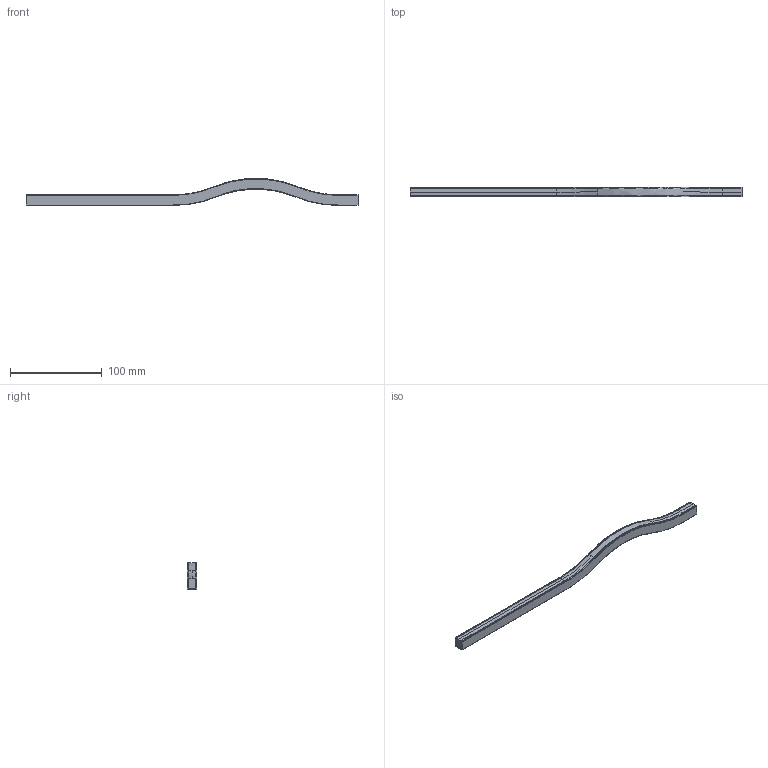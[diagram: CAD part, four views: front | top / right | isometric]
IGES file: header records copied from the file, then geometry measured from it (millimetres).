
Start section: C
Global section: file name: 8220B.igs; native system: By Siemens PLM Incorporated; preprocessor: XPlus GENERIC/IGES 16.0.42; author: Author; organization: Title; date: 20210506.144458; units: millimetre
Bounding box: 361.09 x 10.8 x 29.34 mm (x, y, z)
Surface area: 36332.9 mm2 (no closed solid volume)
Topology: 0 solids, 0 shells, 100 faces, 484 edges, 484 vertices
Faces by surface type: bspline 100
